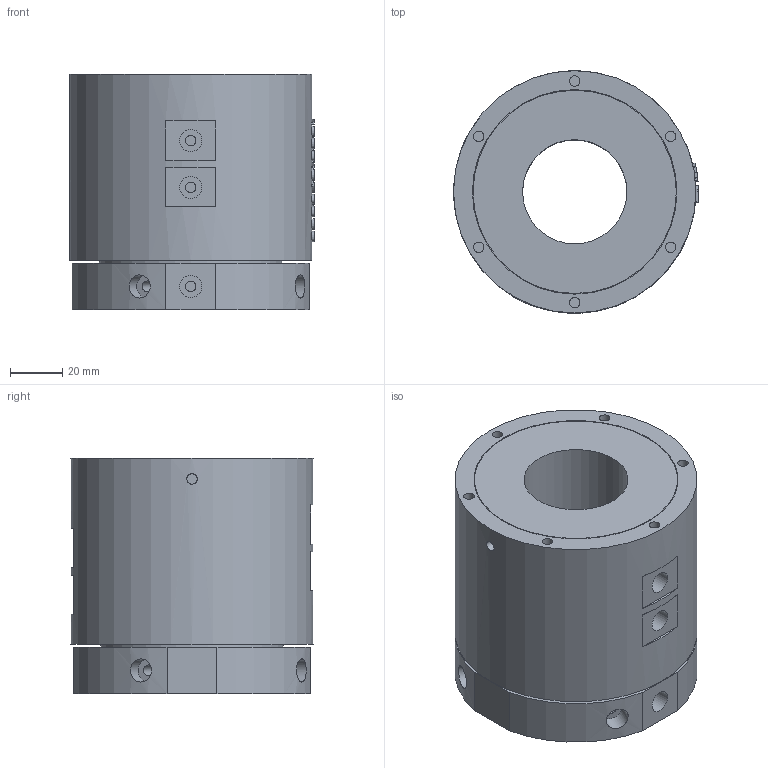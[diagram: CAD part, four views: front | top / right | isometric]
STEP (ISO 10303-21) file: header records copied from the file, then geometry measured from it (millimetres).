
FILE_DESCRIPTION(/* description */ (''),/* implementation_level */ '2;1');
FILE_NAME(/* name */ 'HQ0401D40.stp',/* time_stamp */ '2024-07-01T12:03:34+08:00',/* author */ (''),/* organization */ (''),/* preprocessor_version */ 'ST-DEVELOPER v16.7',/* originating_system */ 'SIEMENS PLM Software NX 12.0',/* authorisation */ '');
FILE_SCHEMA (('AUTOMOTIVE_DESIGN { 1 0 10303 214 3 1 1 1 }'));
Length unit declared in the file: millimetre
Products named in the file (1): 86130A48DBE8x95u
Bounding box: 94 x 93 x 90.5 mm (x, y, z)
Volume: 488441.3 mm3; surface area: 61735.6 mm2
Topology: 1 solids, 1 shells, 419 faces, 1011 edges, 675 vertices
Faces by surface type: plane 175, extrusion 157, cylinder 60, bspline 27
Full cylindrical faces by diameter (mm): 4 x18, 4.2 x8, 7 x4, 8.5 x6, 8.875 x4, 40 x1, 70 x1, 78 x1, 78.5 x1, 93 x1
Entity records: 18160 total; most frequent: CARTESIAN_POINT 9208, ORIENTED_EDGE 1908, DIRECTION 1355, EDGE_CURVE 954, VERTEX_POINT 670, EDGE_LOOP 562, VECTOR 557, B_SPLINE_CURVE_WITH_KNOTS 548
